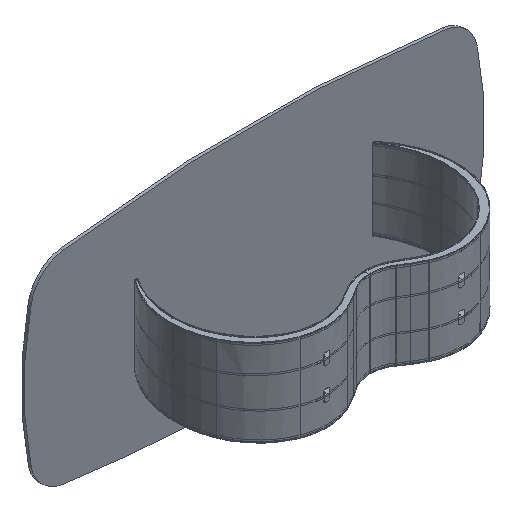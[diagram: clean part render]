
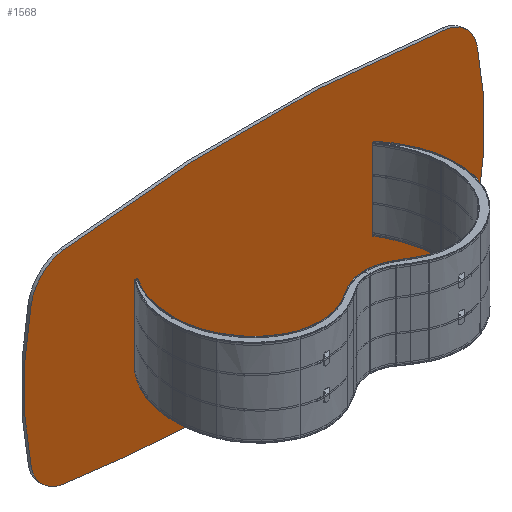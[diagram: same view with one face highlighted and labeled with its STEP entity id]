
A CAD part, isometric view. The second image highlights one B-rep face of the part: STEP entity #1568.
In plain terms, the highlighted planar face has unit normal (0, -1, 0).
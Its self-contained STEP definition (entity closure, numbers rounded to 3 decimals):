
#563 = EDGE_CURVE ( 'NONE', #32521, #8557, #31109, .T. ) ;
#836 = DIRECTION ( 'NONE',  ( 0., 0., 1. ) ) ;
#1568 = ADVANCED_FACE ( 'NONE', ( #24110 ), #2422, .F. ) ;
#2027 = EDGE_CURVE ( 'NONE', #30137, #21339, #36645, .T. ) ;
#2422 = PLANE ( 'NONE',  #33623 ) ;
#2471 = AXIS2_PLACEMENT_3D ( 'NONE', #38517, #22411, #16176 ) ;
#2867 = AXIS2_PLACEMENT_3D ( 'NONE', #19639, #16714, #836 ) ;
#3321 = ORIENTED_EDGE ( 'NONE', *, *, #23724, .F. ) ;
#4105 = CIRCLE ( 'NONE', #29404, 6950. ) ;
#4403 = ORIENTED_EDGE ( 'NONE', *, *, #31923, .T. ) ;
#5364 = EDGE_CURVE ( 'NONE', #32521, #35568, #4105, .T. ) ;
#5531 = DIRECTION ( 'NONE',  ( 0., 0., 1. ) ) ;
#6135 = DIRECTION ( 'NONE',  ( 0., 0., 1. ) ) ;
#6555 = DIRECTION ( 'NONE',  ( 0., 1., 0. ) ) ;
#6974 = AXIS2_PLACEMENT_3D ( 'NONE', #38583, #25595, #7241 ) ;
#7241 = DIRECTION ( 'NONE',  ( 0., 0., 1. ) ) ;
#7527 = CIRCLE ( 'NONE', #2867, 200. ) ;
#7785 = CARTESIAN_POINT ( 'NONE',  ( 0., 0., 6350. ) ) ;
#8323 = CIRCLE ( 'NONE', #6974, 200. ) ;
#8557 = VERTEX_POINT ( 'NONE', #30986 ) ;
#8741 = CARTESIAN_POINT ( 'NONE',  ( -995.103, 0., -528.391 ) ) ;
#9524 = CARTESIAN_POINT ( 'NONE',  ( -966.467, 0., 330.452 ) ) ;
#10241 = VERTEX_POINT ( 'NONE', #31178 ) ;
#10585 = CARTESIAN_POINT ( 'NONE',  ( 995.103, 0., 528.391 ) ) ;
#11583 = DIRECTION ( 'NONE',  ( 0., 1., 0. ) ) ;
#11998 = CARTESIAN_POINT ( 'NONE',  ( 0., 0., -6350. ) ) ;
#12096 = DIRECTION ( 'NONE',  ( 0., 1., 0. ) ) ;
#13512 = ORIENTED_EDGE ( 'NONE', *, *, #2027, .F. ) ;
#13613 = DIRECTION ( 'NONE',  ( 0., 1., 0. ) ) ;
#13670 = CIRCLE ( 'NONE', #37027, 1845. ) ;
#14325 = ORIENTED_EDGE ( 'NONE', *, *, #563, .T. ) ;
#14993 = EDGE_CURVE ( 'NONE', #39134, #8557, #13670, .T. ) ;
#15659 = DIRECTION ( 'NONE',  ( 0., 0., 1. ) ) ;
#16176 = DIRECTION ( 'NONE',  ( 0., 0., 1. ) ) ;
#16714 = DIRECTION ( 'NONE',  ( 0., -1., 0. ) ) ;
#17402 = DIRECTION ( 'NONE',  ( 0., 0., 1. ) ) ;
#18384 = CIRCLE ( 'NONE', #28338, 6950. ) ;
#18505 = DIRECTION ( 'NONE',  ( 0., 1., 0. ) ) ;
#19145 = ORIENTED_EDGE ( 'NONE', *, *, #14993, .F. ) ;
#19350 = DIRECTION ( 'NONE',  ( 0., 0., 1. ) ) ;
#19356 = VERTEX_POINT ( 'NONE', #10585 ) ;
#19639 = CARTESIAN_POINT ( 'NONE',  ( -966.467, 0., -330.452 ) ) ;
#20562 = EDGE_CURVE ( 'NONE', #10241, #21339, #22541, .T. ) ;
#20650 = AXIS2_PLACEMENT_3D ( 'NONE', #34871, #12096, #15659 ) ;
#21339 = VERTEX_POINT ( 'NONE', #40791 ) ;
#22250 = DIRECTION ( 'NONE',  ( 0., -1., 0. ) ) ;
#22411 = DIRECTION ( 'NONE',  ( 0., -1., 0. ) ) ;
#22541 = CIRCLE ( 'NONE', #27876, 200. ) ;
#23682 = DIRECTION ( 'NONE',  ( 0., 1., 0. ) ) ;
#23724 = EDGE_CURVE ( 'NONE', #10241, #19356, #32100, .T. ) ;
#24110 = FACE_OUTER_BOUND ( 'NONE', #37836, .T. ) ;
#24287 = DIRECTION ( 'NONE',  ( 0., 0., 1. ) ) ;
#25490 = CARTESIAN_POINT ( 'NONE',  ( 0., 0., -600. ) ) ;
#25595 = DIRECTION ( 'NONE',  ( 0., -1., 0. ) ) ;
#27876 = AXIS2_PLACEMENT_3D ( 'NONE', #9524, #22250, #19350 ) ;
#28338 = AXIS2_PLACEMENT_3D ( 'NONE', #35369, #6555, #6135 ) ;
#29404 = AXIS2_PLACEMENT_3D ( 'NONE', #7785, #13613, #17402 ) ;
#30137 = VERTEX_POINT ( 'NONE', #38546 ) ;
#30148 = ORIENTED_EDGE ( 'NONE', *, *, #36417, .T. ) ;
#30787 = CARTESIAN_POINT ( 'NONE',  ( -322.5, 0., 3175. ) ) ;
#30986 = CARTESIAN_POINT ( 'NONE',  ( 1162.39, 0., -370.629 ) ) ;
#30988 = DIRECTION ( 'NONE',  ( 0., 0., 1. ) ) ;
#31109 = CIRCLE ( 'NONE', #2471, 200. ) ;
#31178 = CARTESIAN_POINT ( 'NONE',  ( -995.103, 0., 528.391 ) ) ;
#31923 = EDGE_CURVE ( 'NONE', #30137, #32989, #7527, .T. ) ;
#32100 = CIRCLE ( 'NONE', #40818, 6950. ) ;
#32521 = VERTEX_POINT ( 'NONE', #39120 ) ;
#32989 = VERTEX_POINT ( 'NONE', #8741 ) ;
#33623 = AXIS2_PLACEMENT_3D ( 'NONE', #30787, #11583, #5531 ) ;
#34871 = CARTESIAN_POINT ( 'NONE',  ( 645., 0., 0. ) ) ;
#35369 = CARTESIAN_POINT ( 'NONE',  ( 0., 0., 6350. ) ) ;
#35568 = VERTEX_POINT ( 'NONE', #25490 ) ;
#36417 = EDGE_CURVE ( 'NONE', #39134, #19356, #8323, .T. ) ;
#36645 = CIRCLE ( 'NONE', #20650, 1845. ) ;
#37027 = AXIS2_PLACEMENT_3D ( 'NONE', #40202, #23682, #24287 ) ;
#37768 = EDGE_CURVE ( 'NONE', #35568, #32989, #18384, .T. ) ;
#37836 = EDGE_LOOP ( 'NONE', ( #3321, #39917, #13512, #4403, #40173, #40045, #14325, #19145, #30148 ) ) ;
#38259 = CARTESIAN_POINT ( 'NONE',  ( 1162.39, 0., 370.629 ) ) ;
#38517 = CARTESIAN_POINT ( 'NONE',  ( 966.467, 0., -330.452 ) ) ;
#38546 = CARTESIAN_POINT ( 'NONE',  ( -1162.39, 0., -370.629 ) ) ;
#38583 = CARTESIAN_POINT ( 'NONE',  ( 966.467, 0., 330.452 ) ) ;
#39120 = CARTESIAN_POINT ( 'NONE',  ( 995.103, 0., -528.391 ) ) ;
#39134 = VERTEX_POINT ( 'NONE', #38259 ) ;
#39917 = ORIENTED_EDGE ( 'NONE', *, *, #20562, .T. ) ;
#40045 = ORIENTED_EDGE ( 'NONE', *, *, #5364, .F. ) ;
#40173 = ORIENTED_EDGE ( 'NONE', *, *, #37768, .F. ) ;
#40202 = CARTESIAN_POINT ( 'NONE',  ( -645., 0., 0. ) ) ;
#40791 = CARTESIAN_POINT ( 'NONE',  ( -1162.39, 0., 370.629 ) ) ;
#40818 = AXIS2_PLACEMENT_3D ( 'NONE', #11998, #18505, #30988 ) ;
